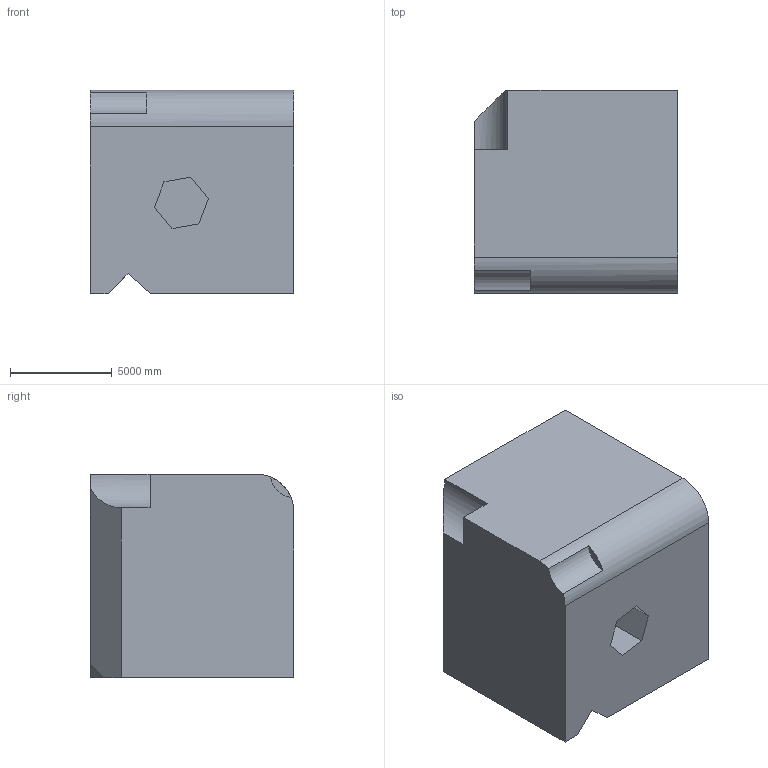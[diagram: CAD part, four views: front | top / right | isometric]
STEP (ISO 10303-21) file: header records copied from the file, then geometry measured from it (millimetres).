
FILE_DESCRIPTION (( 'STEP AP203' ), '1' );
FILE_NAME ('502.STEP', '2022-07-29T11:32:31', ( 'user' ), ( '' ), 'SwSTEP 2.0', 'SolidWorks 2021', '' );
FILE_SCHEMA (( 'CONFIG_CONTROL_DESIGN' ));
Length unit declared in the file: centimetre
Products named in the file (1): 502
Bounding box: 10000 x 10000 x 10000 mm (x, y, z)
Volume: 952209747530.4 mm3; surface area: 608234286.2 mm2
Topology: 1 solids, 1 shells, 22 faces, 57 edges, 38 vertices
Faces by surface type: plane 19, cylinder 3
Entity records: 746 total; most frequent: CARTESIAN_POINT 121, ORIENTED_EDGE 114, DIRECTION 110, EDGE_CURVE 57, LINE 48, VECTOR 48, VERTEX_POINT 38, AXIS2_PLACEMENT_3D 31
